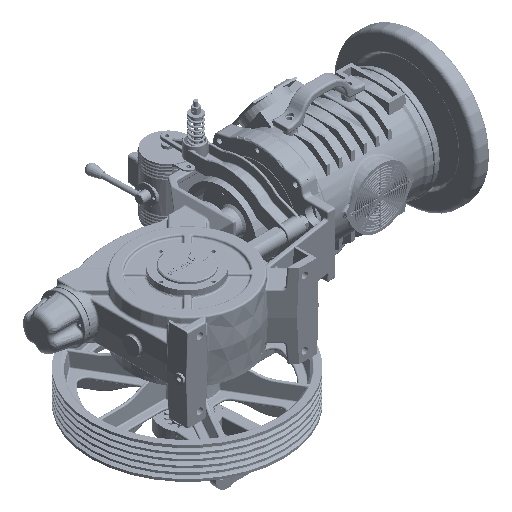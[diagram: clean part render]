
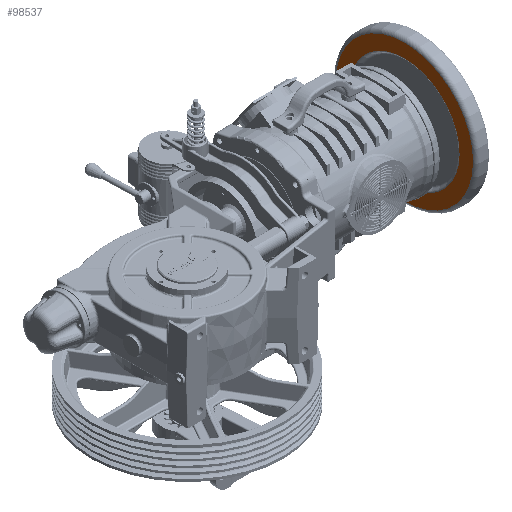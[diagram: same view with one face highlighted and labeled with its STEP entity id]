
A CAD part, isometric view. The second image highlights one B-rep face of the part: STEP entity #98537.
In plain terms, the highlighted planar face has unit normal (-1, 0, 0).
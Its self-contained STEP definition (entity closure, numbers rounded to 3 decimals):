
#2823 = FACE_BOUND ( 'NONE', #3498, .T. ) ;
#3498 = EDGE_LOOP ( 'NONE', ( #184919, #80160 ) ) ;
#6836 = DIRECTION ( 'NONE',  ( -1., 0., 0. ) ) ;
#7538 = DIRECTION ( 'NONE',  ( 1., 0., 0. ) ) ;
#17073 = CARTESIAN_POINT ( 'NONE',  ( 691.454, 95.555, 0. ) ) ;
#17383 = DIRECTION ( 'NONE',  ( 1., 0., 0. ) ) ;
#18704 = DIRECTION ( 'NONE',  ( 0., -0.757, -0.654 ) ) ;
#19596 = CARTESIAN_POINT ( 'NONE',  ( 691.454, 95.555, 0. ) ) ;
#47764 = CARTESIAN_POINT ( 'NONE',  ( 691.454, 195.525, -115.674 ) ) ;
#80160 = ORIENTED_EDGE ( 'NONE', *, *, #263314, .T. ) ;
#82380 = DIRECTION ( 'NONE',  ( 1., 0., 0. ) ) ;
#83720 = DIRECTION ( 'NONE',  ( 0., -0.757, -0.654 ) ) ;
#85168 = AXIS2_PLACEMENT_3D ( 'NONE', #103379, #17383, #18704 ) ;
#86679 = CIRCLE ( 'NONE', #173878, 152.887 ) ;
#90683 = CARTESIAN_POINT ( 'NONE',  ( 691.454, -20.118, -99.97 ) ) ;
#98028 = EDGE_CURVE ( 'NONE', #185814, #198632, #251393, .T. ) ;
#98537 = ADVANCED_FACE ( 'NONE', ( #2823, #107974 ), #170847, .T. ) ;
#103379 = CARTESIAN_POINT ( 'NONE',  ( 691.454, 95.555, 0. ) ) ;
#107974 = FACE_OUTER_BOUND ( 'NONE', #254036, .T. ) ;
#121450 = CARTESIAN_POINT ( 'NONE',  ( 691.454, -48.198, -124.237 ) ) ;
#122931 = AXIS2_PLACEMENT_3D ( 'NONE', #17073, #224718, #140030 ) ;
#128219 = ORIENTED_EDGE ( 'NONE', *, *, #98028, .F. ) ;
#131184 = DIRECTION ( 'NONE',  ( 0., 0.757, 0.654 ) ) ;
#133216 = DIRECTION ( 'NONE',  ( 0., -0.757, -0.654 ) ) ;
#140030 = DIRECTION ( 'NONE',  ( 0., -0.757, -0.654 ) ) ;
#145988 = CARTESIAN_POINT ( 'NONE',  ( 691.454, 95.555, 0. ) ) ;
#150586 = CIRCLE ( 'NONE', #85168, 190. ) ;
#157351 = CARTESIAN_POINT ( 'NONE',  ( 691.454, 239.309, 124.237 ) ) ;
#170151 = VERTEX_POINT ( 'NONE', #227123 ) ;
#170847 = PLANE ( 'NONE',  #264662 ) ;
#173878 = AXIS2_PLACEMENT_3D ( 'NONE', #145988, #7538, #133216 ) ;
#180823 = EDGE_CURVE ( 'NONE', #265889, #170151, #86679, .T. ) ;
#184919 = ORIENTED_EDGE ( 'NONE', *, *, #180823, .T. ) ;
#185814 = VERTEX_POINT ( 'NONE', #157351 ) ;
#190282 = AXIS2_PLACEMENT_3D ( 'NONE', #19596, #82380, #83720 ) ;
#196562 = EDGE_CURVE ( 'NONE', #198632, #185814, #150586, .T. ) ;
#198632 = VERTEX_POINT ( 'NONE', #121450 ) ;
#201523 = CIRCLE ( 'NONE', #122931, 152.887 ) ;
#224718 = DIRECTION ( 'NONE',  ( 1., 0., 0. ) ) ;
#227123 = CARTESIAN_POINT ( 'NONE',  ( 691.454, 211.229, 99.97 ) ) ;
#232946 = ORIENTED_EDGE ( 'NONE', *, *, #196562, .F. ) ;
#251393 = CIRCLE ( 'NONE', #190282, 190. ) ;
#254036 = EDGE_LOOP ( 'NONE', ( #232946, #128219 ) ) ;
#263314 = EDGE_CURVE ( 'NONE', #170151, #265889, #201523, .T. ) ;
#264662 = AXIS2_PLACEMENT_3D ( 'NONE', #47764, #6836, #131184 ) ;
#265889 = VERTEX_POINT ( 'NONE', #90683 ) ;
